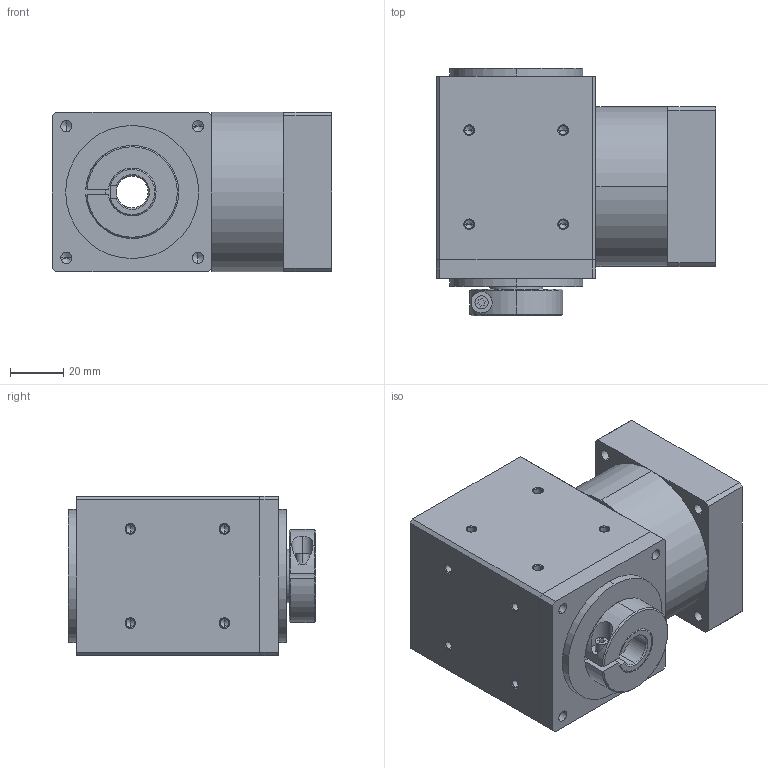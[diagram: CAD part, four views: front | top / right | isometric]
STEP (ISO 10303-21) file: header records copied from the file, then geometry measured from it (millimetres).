
FILE_DESCRIPTION (( 'STEP AP203' ), '1' );
FILE_NAME ('RLHS-060.STEP', '2010-05-27T18:55:38', ( 'render' ), ( '' ), 'SwSTEP 2.0', 'SolidWorks 2009', '' );
FILE_SCHEMA (( 'CONFIG_CONTROL_DESIGN' ));
Length unit declared in the file: millimetre
Products named in the file (1): RLHS-060
Bounding box: 105 x 93 x 60 mm (x, y, z)
Volume: 400716.4 mm3; surface area: 65323 mm2
Topology: 5 solids, 5 shells, 243 faces, 584 edges, 342 vertices
Faces by surface type: cylinder 107, cone 80, plane 56
Entity records: 6961 total; most frequent: DIRECTION 1278, CARTESIAN_POINT 1224, ORIENTED_EDGE 1088, EDGE_CURVE 544, AXIS2_PLACEMENT_3D 500, VERTEX_POINT 342, EDGE_LOOP 294, LINE 278
